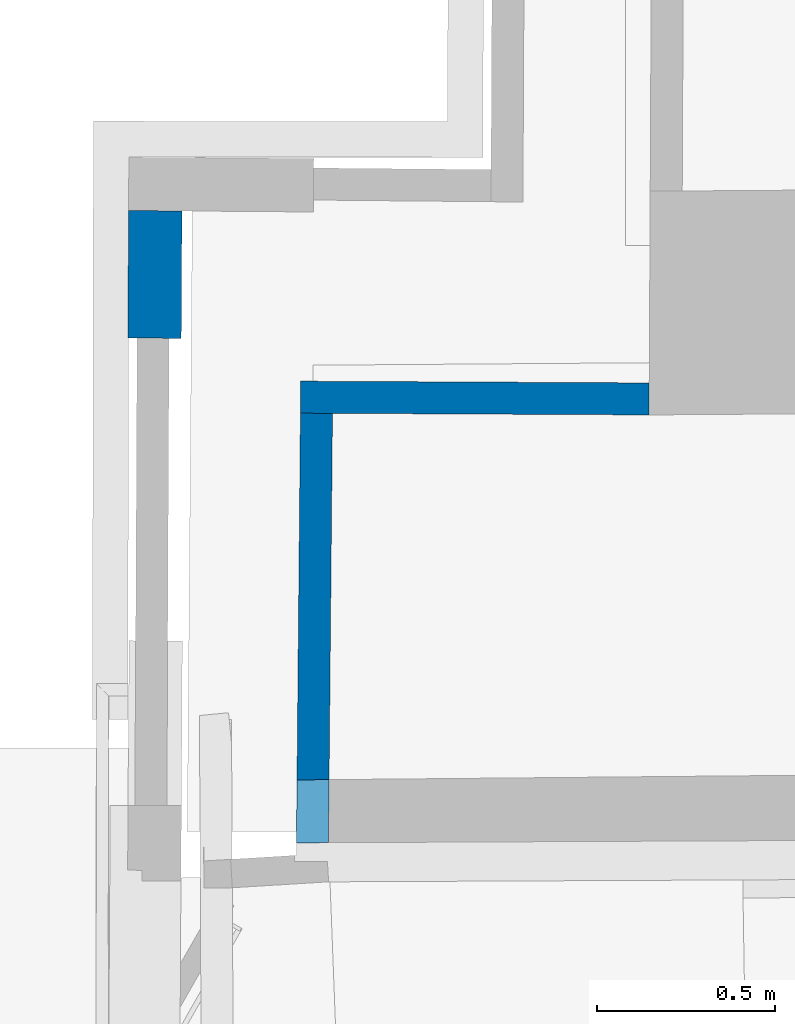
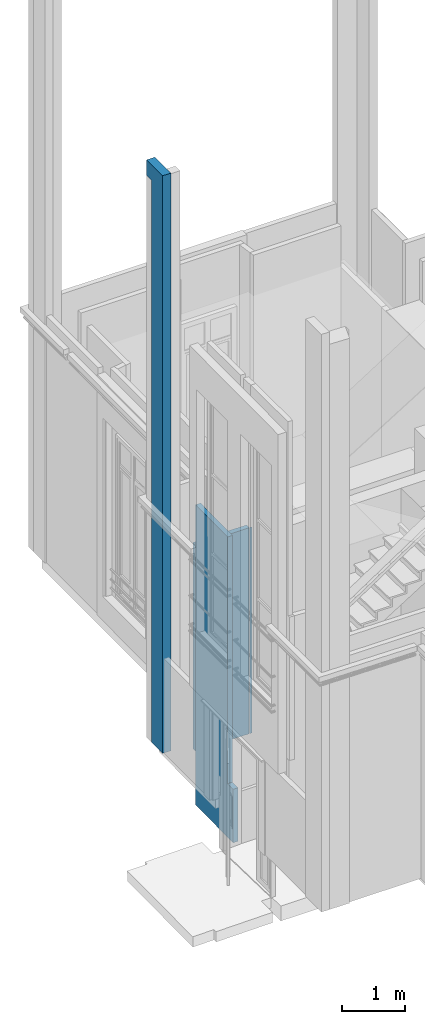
# One storey, part 48 of 97: 3 walls.
"""IFC2X3 building model written with IfcOpenShell, lengths in centimetres."""

from ifc_helpers import new_model, entity, si_unit, converted_unit, direction, frame, origin, origin_with_axes, place, context, subcontext, project, spatial, faceted_brep, material, layer, layer_set, layer_usage, type_object, element, save


model = new_model("IFC2X3")

# Units and contexts
model_context = context("Model", 3, precision=0.0001, world=origin(), true_north=direction((0.225632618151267, 0.974212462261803, 0.0)))
body_context = subcontext(model_context, "Body", "Model", "MODEL_VIEW")
ifc_project = project(units=[si_unit("LENGTHUNIT", "METRE", prefix="CENTI"), si_unit("AREAUNIT", "SQUARE_METRE", prefix="CENTI"), si_unit("VOLUMEUNIT", "CUBIC_METRE", prefix="CENTI"), converted_unit("PLANEANGLEUNIT", "DEGREE", entity("IfcRatioMeasure", 0.0174532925), si_unit("PLANEANGLEUNIT", "RADIAN"), dimensions=[0, 0, 0, 0, 0, 0, 0])], contexts=[model_context])

# Site, building, storey
site_placement = place(None, origin_with_axes())
site = spatial("IfcSite", under=ifc_project, at=site_placement, Name="Default Site", CompositionType="ELEMENT")
building_placement = place(site_placement, origin_with_axes())
building = spatial("IfcBuilding", under=site, at=building_placement, Name="Default Building", CompositionType="ELEMENT")
storey_placement = place(building_placement, origin_with_axes())
storey = spatial("IfcBuildingStorey", under=building, at=storey_placement, Name="Rez-de-chaussée", CompositionType="ELEMENT", Elevation=0.0)

# Walls
ifc_material = material(Name="<aucun>")
ifc_layer_1 = layer(ifc_material, 9.0)
ifc_layer_set_1 = layer_set([ifc_layer_1], Name="default")
ifc_layer_usage_1 = layer_usage(ifc_layer_set_1, "AXIS2", "POSITIVE", -4.5)
wall_type_1 = type_object("IfcWallType", Name="default 90", PredefinedType="NOTDEFINED", material=ifc_layer_set_1)
wall_1_placement = place(storey_placement, frame((-1214.04755362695, 146.274150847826, 0.0128503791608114), z_axis=(0.0, 0.0, 1.0), x_axis=(-0.999987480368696, 0.00500390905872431, 0.0)))
element("IfcWall", 1, at=wall_1_placement, inside=storey, type_object=wall_type_1, material=ifc_layer_usage_1, Name="Enveloppe 374647", context=body_context, shape_type="Brep", body=[
    faceted_brep([(88.9929097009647, 4.49999999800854, -4.62607735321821e-10), (0.102484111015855, 4.50000000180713, -4.62607735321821e-10), (0.102484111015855, 4.50000000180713, 399.097180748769), (88.9929097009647, 4.49999999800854, 399.097180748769), (-3.7219140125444e-05, 4.50000560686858, -4.62607735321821e-10), (-5.02367489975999, 4.50000560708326, -4.62607735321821e-10), (-5.02367489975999, 4.50000560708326, 399.097180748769), (-3.7219140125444e-05, 4.50000560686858, 399.097180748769), (96.0453241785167, 4.5000036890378, -4.62607735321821e-10), (88.9929097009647, 4.50000368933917, -4.62607735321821e-10), (88.9929097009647, 4.50000368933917, 399.097180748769), (96.0453241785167, 4.5000036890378, 399.097180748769), (97.9930376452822, 4.49999855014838, -4.62607735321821e-10), (96.0453241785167, 4.49999855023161, -4.62607735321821e-10), (96.0453241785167, 4.49999855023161, 399.097180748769), (97.9930376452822, 4.49999855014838, 399.097180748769), (0.10250584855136, -4.5000026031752, -4.62607735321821e-10), (97.9541490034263, -4.50000260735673, -4.62607735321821e-10), (97.9541490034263, -4.50000260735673, 399.097180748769), (0.10250584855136, -4.5000026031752, 399.097180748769), (-5.02336638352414, 4.43834282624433, -4.62607735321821e-10), (-3.71730595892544e-05, 4.50000185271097, -4.62607735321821e-10), (-3.71730595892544e-05, 4.50000185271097, 399.097180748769), (-5.02336638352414, 4.43834282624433, 399.097180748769), (0.102484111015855, 4.49999409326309, -4.62607735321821e-10), (88.9927693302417, 4.4708761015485, -4.62607735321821e-10), (96.0463853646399, 4.44040360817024, -4.62607735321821e-10), (97.9927103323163, 4.43199908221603, -4.62607735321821e-10), (97.9541490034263, -4.50000211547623, -4.62607735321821e-10), (97.9541490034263, -4.50000211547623, 399.097180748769), (97.9927103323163, 4.43199908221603, 399.097180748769), (96.0463853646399, 4.44040360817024, 399.097180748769), (88.9927693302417, 4.4708761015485, 399.097180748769), (0.102484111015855, 4.49999409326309, 399.097180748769), (0.102484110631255, -4.5000026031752, -4.62607735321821e-10), (0.102484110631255, -4.5000026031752, 399.097180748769), (-5.02367489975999, 4.49999709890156, -4.62607735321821e-10), (-5.02367489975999, 4.49999709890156, 399.097180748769), (-5.02337063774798, 4.43834280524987, -4.62607735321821e-10), (-5.02337063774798, 4.43834280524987, 399.097180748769), (97.9927332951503, 4.43199898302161, -4.62607735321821e-10), (97.9927332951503, 4.43199898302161, 399.097180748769), (97.9930040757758, 4.4999986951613, -4.62607735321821e-10), (97.9930040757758, 4.4999986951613, 399.097180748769)], [[[0, 1, 2, 3]], [[4, 5, 6, 7]], [[8, 9, 10, 11]], [[12, 13, 14, 15]], [[16, 17, 18, 19]], [[20, 21, 22, 23]], [[24, 0, 25, 26, 27, 28, 16]], [[19, 29, 30, 31, 32, 3, 33]], [[24, 34, 35, 33]], [[20, 36, 4]], [[7, 37, 23]], [[36, 38, 39, 37]], [[25, 0, 12, 27]], [[30, 15, 3, 32]], [[28, 40, 41, 29]], [[27, 42, 43, 30]]]),
])
ifc_layer_usage_2 = layer_usage(ifc_layer_set_1, "AXIS2", "POSITIVE", -4.5)
wall_2_placement = place(storey_placement, frame((-1308.73736678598, 16.1689817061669, -103.702535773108), z_axis=(0.0, 0.0, 1.0), x_axis=(0.00932354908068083, 0.999956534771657, 0.0)))
element("IfcWall", 2, at=wall_2_placement, inside=storey, type_object=wall_type_1, material=ifc_layer_usage_2, Name="Enveloppe 371172", context=body_context, shape_type="Brep", body=[
    faceted_brep([(23.003615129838, 4.50001303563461, 2.5280211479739e-06), (5.30552819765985, 4.50001304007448, 2.5280211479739e-06), (5.30552819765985, 4.50001304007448, 103.715386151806), (23.003615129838, 4.50001303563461, 103.715386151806), (126.127098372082, 4.49999544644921, 2.5280211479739e-06), (126.059098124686, 4.49999544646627, 2.5280211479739e-06), (126.059098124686, 4.49999544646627, 103.715386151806), (126.127098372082, 4.49999544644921, 103.715386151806), (126.059098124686, 4.50002901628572, 2.5280211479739e-06), (43.7431096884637, 4.50002903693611, 2.5280211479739e-06), (43.7431096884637, 4.50002903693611, 581.510725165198), (126.059098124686, 4.50002901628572, 581.510725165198), (126.059098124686, 4.50002901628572, 502.812566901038), (126.059098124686, 4.50002901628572, 103.715386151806), (34.6932528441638, 4.49999697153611, 2.5280211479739e-06), (23.003615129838, 4.49999697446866, 2.5280211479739e-06), (23.003615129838, 4.49999697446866, 103.715386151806), (23.003615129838, 4.49999697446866, 581.510725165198), (34.6932528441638, 4.49999697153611, 581.510725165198), (43.7431096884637, 4.49997357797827, 2.5280211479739e-06), (36.9339901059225, 4.49997357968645, 2.5280211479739e-06), (36.9339901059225, 4.49997357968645, 581.510725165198), (43.7431096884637, 4.49997357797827, 581.510725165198), (36.9339901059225, 4.50000312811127, 2.5280211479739e-06), (34.6932528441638, 4.5000031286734, 2.5280211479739e-06), (34.6932528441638, 4.5000031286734, 581.510725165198), (36.9339901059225, 4.50000312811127, 581.510725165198), (126.127098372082, 4.49999544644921, 502.812566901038), (126.059098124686, 4.49999544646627, 502.812566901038), (126.059098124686, 4.49999544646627, 581.510725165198), (126.127098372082, 4.49999544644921, 581.510725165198), (5.43145790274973, -4.500005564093, 2.5280211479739e-06), (23.1533913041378, -4.50000556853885, 2.5280211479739e-06), (23.1533913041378, -4.50000556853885, 103.715386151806), (5.43145790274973, -4.500005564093, 103.715386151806), (61.3140769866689, -4.49997349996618, 2.5280211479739e-06), (126.097974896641, -4.49997351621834, 2.5280211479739e-06), (126.097974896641, -4.49997351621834, 103.715386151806), (126.097974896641, -4.49997351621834, 502.812566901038), (126.097974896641, -4.49997351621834, 581.510725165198), (61.3140769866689, -4.49997349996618, 581.510725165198), (23.1533913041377, -4.5000460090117, 2.5280211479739e-06), (29.9810182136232, -4.50004601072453, 2.5280211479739e-06), (29.9810182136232, -4.50004601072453, 581.510725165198), (23.1533913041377, -4.5000460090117, 581.510725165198), (23.1533913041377, -4.5000460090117, 103.715386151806), (29.9810182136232, -4.49999836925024, 2.5280211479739e-06), (61.3140769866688, -4.49999837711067, 2.5280211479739e-06), (61.3140769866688, -4.49999837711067, 581.510725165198), (29.9810182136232, -4.49999836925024, 581.510725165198), (126.097974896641, -4.50001496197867, 2.5280211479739e-06), (126.127099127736, -4.50001496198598, 2.5280211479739e-06), (126.127099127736, -4.50001496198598, 103.715386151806), (126.097974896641, -4.50001496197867, 103.715386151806), (126.097974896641, -4.50001496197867, 502.812566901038), (126.127099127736, -4.50001496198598, 502.812566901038), (126.127099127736, -4.50001496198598, 581.510725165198), (126.097974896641, -4.50001496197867, 581.510725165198), (5.30552819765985, 4.49998970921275, 2.5280211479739e-06), (5.30552819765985, 4.49998970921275, 103.715386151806), (5.43145772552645, -4.50000556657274, 2.5280211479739e-06), (5.43145772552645, -4.50000556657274, 103.715386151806), (126.127101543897, 2.55365233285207, 2.5280211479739e-06), (126.067506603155, 2.55233369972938, 2.5280211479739e-06), (126.067506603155, 2.55233369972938, 103.715386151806), (126.127101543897, 2.55365233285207, 103.715386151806), (126.127101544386, 4.49999544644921, 2.5280211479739e-06), (126.127101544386, 4.49999544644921, 103.715386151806), (63.4664227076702, -1.71393865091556, 2.5280211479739e-06), (63.4020905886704, 1.13964670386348, 2.5280211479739e-06), (126.067506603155, 2.55233369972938, 581.510725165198), (63.4020905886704, 1.13964670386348, 581.510725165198), (63.4664227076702, -1.71393865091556, 581.510725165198), (126.067506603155, 2.55233369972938, 502.812566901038), (126.097971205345, -4.50001497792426, 502.812566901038), (126.097971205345, -4.50001497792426, 103.715386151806), (44.1430834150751, 0.705434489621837, 2.5280211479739e-06), (43.8757752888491, 3.24144738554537, 2.5280211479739e-06), (43.8757752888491, 3.24144738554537, 581.510725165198), (44.1430834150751, 0.705434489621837, 581.510725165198), (126.067511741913, 2.55233372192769, 502.812566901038), (126.067511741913, 2.55233372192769, 103.715386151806), (34.8360488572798, 3.14523994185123, 2.5280211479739e-06), (34.9622737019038, 1.94778687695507, 2.5280211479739e-06), (34.9622737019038, 1.94778687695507, 581.510725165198), (34.8360488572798, 3.14523994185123, 581.510725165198), (23.003615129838, 4.50001303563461, 581.510725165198), (23.1533929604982, -4.50004598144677, 103.715386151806), (23.1533929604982, -4.50004598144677, 581.510725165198), (126.127099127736, -4.50002952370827, 2.5280211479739e-06), (126.127099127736, -4.50002952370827, 103.715386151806), (126.127099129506, 2.55365233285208, 2.5280211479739e-06), (126.127099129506, 2.55365233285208, 103.715386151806), (126.127101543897, 2.55365233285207, 502.812566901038), (126.127101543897, 2.55365233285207, 581.510725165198), (126.127101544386, 4.49999544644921, 502.812566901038), (126.127101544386, 4.49999544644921, 581.510725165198), (126.127099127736, -4.50002952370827, 502.812566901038), (126.127099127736, -4.50002952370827, 581.510725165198), (126.127099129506, 2.55365233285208, 502.812566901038), (126.127099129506, 2.55365233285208, 581.510725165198)], [[[0, 1, 2, 3]], [[4, 5, 6, 7]], [[8, 9, 10, 11, 12, 13]], [[14, 15, 16, 17, 18]], [[19, 20, 21, 22]], [[23, 24, 25, 26]], [[27, 28, 29, 30]], [[31, 32, 33, 34]], [[35, 36, 37, 38, 39, 40]], [[41, 42, 43, 44, 45]], [[46, 47, 48, 49]], [[50, 51, 52, 53]], [[54, 55, 56, 57]], [[58, 0, 41, 31]], [[34, 45, 3, 59]], [[58, 60, 61, 59]], [[4, 62, 63, 8]], [[13, 64, 65, 7]], [[62, 66, 67, 65]], [[50, 35, 68, 69, 63]], [[70, 71, 72, 40, 57]], [[73, 74, 75, 64]], [[8, 63, 69, 76, 77, 19]], [[22, 78, 79, 71, 70, 11]], [[12, 80, 81, 13]], [[0, 14, 82, 83, 46, 41]], [[44, 49, 84, 85, 18, 86]], [[3, 87, 88, 86]], [[35, 46, 83, 23, 19, 76, 69, 68]], [[72, 71, 79, 22, 26, 84, 49, 40]], [[89, 50, 63, 62]], [[65, 64, 53, 90]], [[89, 91, 92, 90]], [[83, 14, 23]], [[26, 18, 84]], [[27, 93, 73, 12]], [[11, 70, 94, 30]], [[93, 95, 96, 94]], [[97, 54, 73, 93]], [[94, 70, 57, 98]], [[97, 99, 100, 98]]]),
])
ifc_layer_2 = layer(ifc_material, 15.0)
ifc_layer_set_2 = layer_set([ifc_layer_2], Name="default")
ifc_layer_usage_3 = layer_usage(ifc_layer_set_2, "AXIS2", "POSITIVE", -7.5)
wall_type_2 = type_object("IfcWallType", Name="default 150", PredefinedType="NOTDEFINED", material=ifc_layer_set_2)
wall_3_placement = place(storey_placement, frame((-1353.07012201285, 163.337219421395, 0.0128503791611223), z_axis=(0.0, 0.0, 1.0), x_axis=(0.0057040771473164, 0.999983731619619, 0.0)))
element("IfcWall", 3, at=wall_3_placement, inside=storey, type_object=wall_type_2, material=ifc_layer_usage_3, Name="Enveloppe 374300", context=body_context, shape_type="Brep", body=[
    faceted_brep([(35.8407873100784, 7.50002012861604, -4.62918597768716e-10), (3.23826810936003e-06, 7.50002012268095, -4.62918597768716e-10), (3.23826810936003e-06, 7.50002012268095, 179.987144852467), (35.8407873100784, 7.50002012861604, 179.987144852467), (3.23826810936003e-06, 7.50002012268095, 183.987152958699), (35.8407873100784, 7.50002012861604, 183.987152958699), (-1.71385470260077e-06, 4.90935084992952, 182.782507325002), (-0.0999955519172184, 4.90925015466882, 182.782507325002), (-0.0999955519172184, 4.90925015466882, 183.987152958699), (-1.71385470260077e-06, 4.90935084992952, 183.987152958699), (-0.0999955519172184, 4.90925015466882, 833.897519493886), (-1.71385470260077e-06, 4.90935084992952, 833.897519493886), (3.23826810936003e-06, 7.50002012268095, 833.897519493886), (35.8407873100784, 7.50002012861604, 833.897519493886), (35.8407873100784, 7.50002012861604, 479.782510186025), (35.8407873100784, 7.50002012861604, 472.782493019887), (3.23826810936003e-06, 7.50002012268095, 848.897481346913), (35.8407873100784, 7.50002012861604, 848.897481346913), (-0.0999955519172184, 4.90925015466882, 841.897511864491), (-1.71385470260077e-06, 4.90935084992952, 841.897511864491), (3.23826810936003e-06, 7.50002012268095, 853.8975004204), (35.8407873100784, 7.50002012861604, 853.8975004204), (-3.0700164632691e-07, 3.14941164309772, 853.8975004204), (-0.0132094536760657, 3.14953902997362, 853.8975004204), (-0.0132094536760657, 3.14953902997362, 855.897546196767), (-3.0700164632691e-07, 3.14941164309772, 855.897546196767), (3.23826810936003e-06, 7.50002012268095, 855.897546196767), (35.8407873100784, 7.50002012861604, 855.897546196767), (-0.0132094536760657, 3.14953902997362, 1090.89748897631), (-3.0700164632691e-07, 3.14941164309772, 1090.89748897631), (3.23826810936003e-06, 7.50002012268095, 1090.89748897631), (35.8407873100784, 7.50002012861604, 1090.89748897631), (35.8407873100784, 7.50002012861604, 1088.89753856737), (50.8408262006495, 7.50003692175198, 1088.89753856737), (35.8407873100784, 7.50003691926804, 1088.89753856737), (35.8407873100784, 7.50003691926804, 1090.89748897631), (50.8408262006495, 7.50003692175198, 1090.89748897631), (3.23826810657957e-06, 7.50003691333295, 1090.89748897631), (3.23826810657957e-06, 7.50003691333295, 1118.9591650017), (50.8408262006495, 7.50003692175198, 1118.9591650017), (-0.0132094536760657, 3.14953902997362, 1118.9591650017), (-3.0700164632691e-07, 3.14941164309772, 1118.9591650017), (-4.49004480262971e-06, -7.49996588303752, -4.62918597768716e-10), (35.8076513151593, -7.49996587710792, -4.62918597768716e-10), (35.8076513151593, -7.49996587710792, 179.987144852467), (-4.49004480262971e-06, -7.49996588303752, 179.987144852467), (35.8076513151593, -7.49996587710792, 183.987152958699), (-4.49004480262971e-06, -7.49996588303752, 183.987152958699), (-0.0909421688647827, -4.09075735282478, 182.782507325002), (3.3405718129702e-06, -4.09066576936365, 182.782507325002), (3.3405718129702e-06, -4.09066576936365, 183.987152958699), (-0.0909421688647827, -4.09075735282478, 183.987152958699), (3.3405718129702e-06, -4.09066576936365, 833.897519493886), (-0.0909421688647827, -4.09075735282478, 833.897519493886), (35.8076513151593, -7.49996587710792, 472.782493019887), (35.8076513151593, -7.49996587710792, 479.782510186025), (35.8076513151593, -7.49996587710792, 833.897519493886), (-4.49004480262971e-06, -7.49996588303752, 833.897519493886), (35.8076513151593, -7.49996587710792, 848.897481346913), (-4.49004480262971e-06, -7.49996588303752, 848.897481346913), (3.3405718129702e-06, -4.09066576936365, 841.897511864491), (-0.0909421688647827, -4.09075735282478, 841.897511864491), (35.8076513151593, -7.49996587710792, 853.8975004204), (-4.49004480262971e-06, -7.49996588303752, 853.8975004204), (-0.0999924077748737, -5.85008060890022, 853.8975004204), (-4.58342850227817e-06, -5.85104487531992, 853.8975004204), (-4.58342850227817e-06, -5.85104487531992, 855.897546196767), (-0.0999924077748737, -5.85008060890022, 855.897546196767), (35.8076513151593, -7.49996587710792, 855.897546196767), (-4.49004480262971e-06, -7.49996588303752, 855.897546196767), (-4.58342850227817e-06, -5.85104487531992, 1090.89748897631), (-0.0999924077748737, -5.85008060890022, 1090.89748897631), (35.8076513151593, -7.49996587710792, 1088.89753856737), (35.8076513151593, -7.49996587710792, 1090.89748897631), (-4.49004480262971e-06, -7.49996588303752, 1090.89748897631), (35.8076513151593, -7.49999329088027, 1088.89753856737), (50.8076782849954, -7.49999328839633, 1088.89753856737), (50.8076782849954, -7.49999328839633, 1090.89748897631), (35.8076513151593, -7.49999329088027, 1090.89748897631), (50.8076782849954, -7.49997656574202, 1088.89753856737), (50.8408190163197, -7.49997656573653, 1088.89753856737), (50.8408190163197, -7.49997656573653, 1090.89748897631), (50.8076782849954, -7.49997656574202, 1090.89748897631), (-4.58342850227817e-06, -5.85104487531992, 1118.9591650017), (-0.0999924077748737, -5.85008060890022, 1118.9591650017), (50.8076782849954, -7.49996587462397, 1090.89748897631), (50.8408190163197, -7.49996587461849, 1090.89748897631), (50.8408190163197, -7.49996587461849, 1118.9591650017), (-4.49004480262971e-06, -7.49996588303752, 1118.9591650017), (3.23826812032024e-06, 7.49995393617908, -4.62918597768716e-10), (35.8351408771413, 4.94543433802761, -4.62918597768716e-10), (-1.71385470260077e-06, 4.90935084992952, -4.62918597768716e-10), (35.8407846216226, 7.50002013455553, -4.62918597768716e-10), (35.8407846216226, 7.50002013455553, 179.987144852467), (35.8351408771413, 4.94543433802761, 179.987144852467), (3.23869711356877e-06, 4.90935084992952, -4.62918597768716e-10), (3.23869711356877e-06, 4.90935084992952, 179.987144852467), (3.23826812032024e-06, 7.49995393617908, 179.987144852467), (3.29454219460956e-06, -4.09062006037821, -4.62918597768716e-10), (35.8076513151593, -7.49999329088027, -4.62918597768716e-10), (35.835146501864, 4.94543432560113, -4.62918597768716e-10), (35.835146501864, 4.94543432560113, 179.987144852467), (35.8076513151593, -7.49999329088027, 179.987144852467), (3.29454219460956e-06, -4.09062006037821, 179.987144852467), (3.29305183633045e-06, 4.90935084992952, 179.987144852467), (3.29305183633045e-06, 4.90935084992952, -4.62918597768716e-10), (3.29510676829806e-06, -7.49996588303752, -4.62918597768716e-10), (3.29510676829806e-06, -7.49996588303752, 179.987144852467), (3.29510676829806e-06, -7.49996588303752, 183.987152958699), (3.29454219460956e-06, -4.09062006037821, 183.987152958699), (3.29454219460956e-06, -4.09062006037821, 182.782507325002), (35.835146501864, 4.94543432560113, 183.987152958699), (35.8076513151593, -7.49999329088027, 183.987152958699), (3.23869711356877e-06, 4.90935084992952, 182.782507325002), (3.23869711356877e-06, 4.90935084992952, 183.987152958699), (3.23826812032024e-06, 7.49995393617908, 183.987152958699), (3.29305183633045e-06, 4.90935084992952, 182.782507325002), (35.8407846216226, 7.50002013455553, 183.987152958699), (35.8351408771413, 4.94543433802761, 183.987152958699), (-0.0999955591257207, 4.9092573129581, 182.782507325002), (-0.0909324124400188, -4.09075734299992, 182.782507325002), (-0.0909324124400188, -4.09075734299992, 183.987152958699), (-0.0999955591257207, 4.9092573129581, 183.987152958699), (3.23869711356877e-06, 4.90935084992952, 833.897519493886), (3.23826812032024e-06, 7.49995393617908, 833.897519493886), (-0.0909324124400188, -4.09075734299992, 833.897519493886), (-0.0999955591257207, 4.9092573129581, 833.897519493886), (3.29510676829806e-06, -7.49996588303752, 833.897519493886), (3.29454219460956e-06, -4.09062006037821, 833.897519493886), (35.835146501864, 4.94543432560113, 472.782493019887), (35.8076513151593, -7.49999329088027, 472.782493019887), (35.8407846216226, 7.50002013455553, 472.782493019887), (35.8351408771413, 4.94543433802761, 472.782493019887), (35.8407902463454, 7.50002012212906, 472.782493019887), (35.8407902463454, 7.50002012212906, 479.782510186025), (35.8076513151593, -7.49999329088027, 479.782510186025), (35.8407902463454, 7.50002012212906, 833.897519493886), (35.8076513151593, -7.49999329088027, 833.897519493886), (3.29510676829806e-06, -7.49996588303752, 848.897481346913), (3.29454219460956e-06, -4.09062006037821, 848.897481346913), (3.29454219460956e-06, -4.09062006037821, 841.897511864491), (35.8407902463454, 7.50002012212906, 848.897481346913), (35.8076513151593, -7.49999329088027, 848.897481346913), (3.23869711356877e-06, 4.90935084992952, 841.897511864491), (3.23869711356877e-06, 4.90935084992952, 848.897481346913), (3.23826812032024e-06, 7.49995393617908, 848.897481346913), (3.29305183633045e-06, 4.90935084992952, 848.897481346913), (3.29305183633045e-06, 4.90935084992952, 841.897511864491), (-0.0999955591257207, 4.9092573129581, 841.897511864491), (-0.0909324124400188, -4.09075734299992, 841.897511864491), (3.24018747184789e-06, -4.09062006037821, 848.897481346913), (3.24075204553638e-06, -7.49996588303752, 848.897481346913), (3.24075204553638e-06, -7.49996588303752, 853.8975004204), (3.24047898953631e-06, -5.85103616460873, 853.8975004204), (3.23898855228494e-06, 3.14941164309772, 853.8975004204), (3.23826812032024e-06, 7.49995393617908, 853.8975004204), (35.8407902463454, 7.50002012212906, 853.8975004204), (35.8076513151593, -7.49999329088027, 853.8975004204), (-4.49942381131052e-06, -5.85103616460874, 853.8975004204), (-0.013209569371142, 3.14952703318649, 853.8975004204), (-0.100000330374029, -5.85008053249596, 853.8975004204), (-0.100000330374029, -5.85008053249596, 855.897546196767), (-0.013209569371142, 3.14952703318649, 855.897546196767), (35.8407902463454, 7.50002012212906, 855.897546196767), (35.8076513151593, -7.49999329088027, 855.897546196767), (3.23898855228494e-06, 3.14941164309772, 855.897546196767), (3.23826812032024e-06, 7.49995393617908, 855.897546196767), (-4.49915075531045e-06, -7.49996588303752, 853.8975004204), (-4.49915075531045e-06, -7.49996588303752, 855.897546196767), (-4.49942381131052e-06, -5.85103616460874, 855.897546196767), (3.23898855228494e-06, 3.14941164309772, 1090.89748897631), (3.23826812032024e-06, 7.49995393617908, 1090.89748897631), (-0.100000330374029, -5.85008053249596, 1090.89748897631), (-0.013209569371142, 3.14952703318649, 1090.89748897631), (-4.49915075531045e-06, -7.49996588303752, 1090.89748897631), (-4.49942381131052e-06, -5.85103616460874, 1090.89748897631), (35.8407902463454, 7.50002012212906, 1088.89753856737), (50.8408190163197, -7.49997826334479, 1088.89753856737), (50.8408190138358, 7.50003692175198, 1088.89753856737), (50.8408190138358, 7.50003692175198, 1090.89748897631), (50.8408190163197, -7.49997826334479, 1090.89748897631), (3.23826812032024e-06, 7.49995393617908, 1118.9591650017), (-0.013209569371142, 3.14952703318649, 1118.9591650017), (-4.49942381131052e-06, -5.85103616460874, 1118.9591650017), (50.8408190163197, -7.49997826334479, 1118.9591650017), (3.23898855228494e-06, 3.14941164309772, 1118.9591650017), (-0.100000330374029, -5.85008053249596, 1118.9591650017), (-4.49915075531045e-06, -7.49996588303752, 1118.9591650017), (50.8408190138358, 7.50003692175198, 1118.9591650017)], [[[0, 1, 2, 3]], [[3, 2, 4, 5]], [[6, 7, 8, 9]], [[9, 8, 10, 11]], [[5, 4, 12, 13, 14, 15]], [[13, 12, 16, 17]], [[11, 10, 18, 19]], [[17, 16, 20, 21]], [[22, 23, 24, 25]], [[21, 20, 26, 27]], [[25, 24, 28, 29]], [[27, 26, 30, 31, 32]], [[33, 34, 35, 36]], [[36, 35, 37, 38, 39]], [[29, 28, 40, 41]], [[42, 43, 44, 45]], [[45, 44, 46, 47]], [[48, 49, 50, 51]], [[51, 50, 52, 53]], [[47, 46, 54, 55, 56, 57]], [[57, 56, 58, 59]], [[53, 52, 60, 61]], [[59, 58, 62, 63]], [[64, 65, 66, 67]], [[63, 62, 68, 69]], [[67, 66, 70, 71]], [[69, 68, 72, 73, 74]], [[75, 76, 77, 78]], [[79, 80, 81, 82]], [[71, 70, 83, 84]], [[74, 73, 85, 86, 87, 88]], [[89, 0, 90, 91]], [[90, 92, 93, 94]], [[89, 95, 96, 97]], [[42, 98, 91, 90, 99]], [[99, 100, 101, 102]], [[103, 104, 105, 98]], [[98, 106, 107, 103]], [[103, 107, 108, 109, 110]], [[102, 101, 111, 112]], [[97, 96, 113, 114, 115]], [[110, 116, 104, 103]], [[94, 93, 117, 118]], [[6, 110, 48, 119]], [[119, 120, 121, 122]], [[115, 114, 123, 124]], [[122, 121, 125, 126]], [[109, 108, 127, 128]], [[112, 111, 129, 130]], [[118, 117, 131, 132]], [[130, 133, 134, 135]], [[135, 134, 136, 137]], [[128, 127, 138, 139, 140]], [[137, 136, 141, 142]], [[124, 123, 143, 144, 145]], [[139, 146, 147, 140]], [[148, 61, 140, 19]], [[126, 125, 149, 148]], [[145, 144, 150, 151, 152, 153, 154, 155]], [[142, 141, 156, 157]], [[22, 158, 64, 159]], [[159, 160, 161, 162]], [[157, 156, 163, 164]], [[155, 154, 165, 166]], [[158, 167, 168, 169]], [[166, 165, 170, 171]], [[162, 161, 172, 173]], [[169, 168, 174, 175]], [[164, 163, 176, 75]], [[32, 33, 79, 75]], [[177, 79, 33]], [[177, 178, 179, 180]], [[39, 181, 41, 182, 84, 183, 88, 184]], [[171, 170, 185, 181]], [[173, 172, 186, 182]], [[175, 174, 187, 183]], [[180, 179, 188, 184]]]),
])

save(model, "model.ifc")
